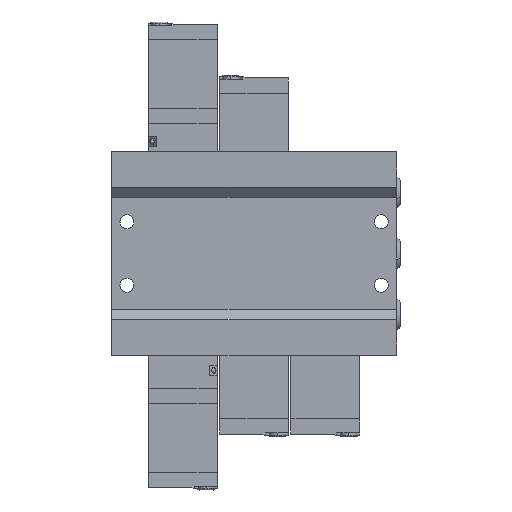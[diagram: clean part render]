
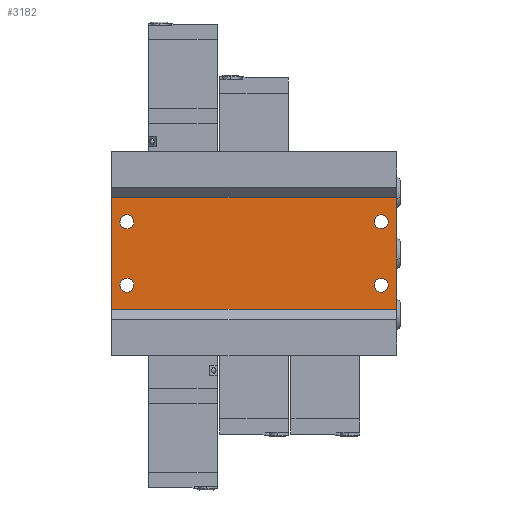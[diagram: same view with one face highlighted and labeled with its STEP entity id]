
A CAD part, front view. The second image highlights one B-rep face of the part: STEP entity #3182.
In plain terms, the highlighted planar face has unit normal (0, -1, 0).
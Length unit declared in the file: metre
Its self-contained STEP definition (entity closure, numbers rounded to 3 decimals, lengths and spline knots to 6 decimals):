
#71 = FACE_BOUND ( 'NONE', #6032, .T. ) ;
#81 = CARTESIAN_POINT ( 'NONE',  ( -0.056, -0.0175, -0.022 ) ) ;
#120 = VERTEX_POINT ( 'NONE', #5231 ) ;
#257 = EDGE_LOOP ( 'NONE', ( #2453, #1173 ) ) ;
#562 = PLANE ( 'NONE',  #7258 ) ;
#621 = DIRECTION ( 'NONE',  ( 0., -1., 0. ) ) ;
#665 = EDGE_CURVE ( 'NONE', #5649, #11669, #15891, .T. ) ;
#684 = EDGE_LOOP ( 'NONE', ( #14292, #7311 ) ) ;
#793 = ORIENTED_EDGE ( 'NONE', *, *, #13633, .F. ) ;
#879 = DIRECTION ( 'NONE',  ( 0., 1., 0. ) ) ;
#898 = DIRECTION ( 'NONE',  ( 0., -1., 0. ) ) ;
#900 = DIRECTION ( 'NONE',  ( 0., -1., 0. ) ) ;
#986 = DIRECTION ( 'NONE',  ( 0., 0., 1. ) ) ;
#1128 = DIRECTION ( 'NONE',  ( 0., 0., 1. ) ) ;
#1173 = ORIENTED_EDGE ( 'NONE', *, *, #14638, .F. ) ;
#1424 = VERTEX_POINT ( 'NONE', #3080 ) ;
#1600 = EDGE_LOOP ( 'NONE', ( #10502, #5006, #16964, #793 ) ) ;
#1783 = ORIENTED_EDGE ( 'NONE', *, *, #13950, .F. ) ;
#1929 = CARTESIAN_POINT ( 'NONE',  ( -0.05, -0.0175, 0.00975 ) ) ;
#2023 = CARTESIAN_POINT ( 'NONE',  ( -0.05, -0.0175, -0.01525 ) ) ;
#2399 = VERTEX_POINT ( 'NONE', #12392 ) ;
#2453 = ORIENTED_EDGE ( 'NONE', *, *, #665, .F. ) ;
#2691 = VERTEX_POINT ( 'NONE', #7793 ) ;
#2950 = LINE ( 'NONE', #8120, #10162 ) ;
#3080 = CARTESIAN_POINT ( 'NONE',  ( 0.056, -0.0175, 0.022 ) ) ;
#3139 = CIRCLE ( 'NONE', #13519, 0.00275 ) ;
#3159 = DIRECTION ( 'NONE',  ( 0., -1., 0. ) ) ;
#3175 = DIRECTION ( 'NONE',  ( -1., 0., 0. ) ) ;
#3182 = ADVANCED_FACE ( 'NONE', ( #71, #7678, #11099, #3878, #18404 ), #562, .F. ) ;
#3324 = CIRCLE ( 'NONE', #14054, 0.00275 ) ;
#3878 = FACE_BOUND ( 'NONE', #684, .T. ) ;
#3903 = CARTESIAN_POINT ( 'NONE',  ( 0., -0.0175, 0.022 ) ) ;
#3906 = EDGE_CURVE ( 'NONE', #16528, #4808, #10163, .T. ) ;
#4246 = AXIS2_PLACEMENT_3D ( 'NONE', #17056, #8323, #18524 ) ;
#4347 = VERTEX_POINT ( 'NONE', #2023 ) ;
#4808 = VERTEX_POINT ( 'NONE', #1929 ) ;
#5006 = ORIENTED_EDGE ( 'NONE', *, *, #7165, .F. ) ;
#5231 = CARTESIAN_POINT ( 'NONE',  ( -0.056, -0.0175, -0.022 ) ) ;
#5649 = VERTEX_POINT ( 'NONE', #14090 ) ;
#6030 = LINE ( 'NONE', #3903, #9904 ) ;
#6032 = EDGE_LOOP ( 'NONE', ( #1783, #9351 ) ) ;
#6181 = CIRCLE ( 'NONE', #4246, 0.00275 ) ;
#6767 = DIRECTION ( 'NONE',  ( 0., -1., 0. ) ) ;
#7165 = EDGE_CURVE ( 'NONE', #120, #12240, #2950, .T. ) ;
#7258 = AXIS2_PLACEMENT_3D ( 'NONE', #81, #879, #986 ) ;
#7304 = CARTESIAN_POINT ( 'NONE',  ( -0.05, -0.0175, -0.00975 ) ) ;
#7311 = ORIENTED_EDGE ( 'NONE', *, *, #9403, .F. ) ;
#7322 = CARTESIAN_POINT ( 'NONE',  ( -0.056, -0.0175, 0.022 ) ) ;
#7604 = VECTOR ( 'NONE', #3175, 1. ) ;
#7678 = FACE_BOUND ( 'NONE', #257, .T. ) ;
#7692 = DIRECTION ( 'NONE',  ( 0., 0., -1. ) ) ;
#7793 = CARTESIAN_POINT ( 'NONE',  ( 0.05, -0.0175, -0.01525 ) ) ;
#7993 = DIRECTION ( 'NONE',  ( 0., 0., 1. ) ) ;
#8120 = CARTESIAN_POINT ( 'NONE',  ( -0.056, -0.0175, 0. ) ) ;
#8323 = DIRECTION ( 'NONE',  ( 0., -1., 0. ) ) ;
#9242 = DIRECTION ( 'NONE',  ( 0., 0., 1. ) ) ;
#9351 = ORIENTED_EDGE ( 'NONE', *, *, #13156, .F. ) ;
#9403 = EDGE_CURVE ( 'NONE', #4808, #16528, #13544, .T. ) ;
#9452 = CARTESIAN_POINT ( 'NONE',  ( -0.05, -0.0175, 0.0125 ) ) ;
#9501 = CARTESIAN_POINT ( 'NONE',  ( 0.05, -0.0175, -0.0125 ) ) ;
#9503 = CARTESIAN_POINT ( 'NONE',  ( 0.05, -0.0175, -0.0125 ) ) ;
#9630 = DIRECTION ( 'NONE',  ( 0., -1., 0. ) ) ;
#9660 = DIRECTION ( 'NONE',  ( 0., 0., 1. ) ) ;
#9700 = EDGE_CURVE ( 'NONE', #15664, #2691, #3139, .T. ) ;
#9741 = AXIS2_PLACEMENT_3D ( 'NONE', #11801, #3159, #13253 ) ;
#9746 = EDGE_CURVE ( 'NONE', #12240, #1424, #6030, .T. ) ;
#9748 = DIRECTION ( 'NONE',  ( 0., -1., 0. ) ) ;
#9904 = VECTOR ( 'NONE', #12486, 1. ) ;
#10163 = CIRCLE ( 'NONE', #18257, 0.00275 ) ;
#10162 = VECTOR ( 'NONE', #7993, 1. ) ;
#10399 = CARTESIAN_POINT ( 'NONE',  ( 0.05, -0.0175, -0.00975 ) ) ;
#10502 = ORIENTED_EDGE ( 'NONE', *, *, #9746, .F. ) ;
#10687 = CARTESIAN_POINT ( 'NONE',  ( 0.05, -0.0175, 0.0125 ) ) ;
#10920 = EDGE_CURVE ( 'NONE', #2691, #15664, #17662, .T. ) ;
#10963 = DIRECTION ( 'NONE',  ( 0., 0., 1. ) ) ;
#10964 = DIRECTION ( 'NONE',  ( 0., 0., 1. ) ) ;
#11099 = FACE_BOUND ( 'NONE', #15146, .T. ) ;
#11669 = VERTEX_POINT ( 'NONE', #14057 ) ;
#11687 = EDGE_CURVE ( 'NONE', #2399, #120, #15350, .T. ) ;
#11801 = CARTESIAN_POINT ( 'NONE',  ( -0.05, -0.0175, 0.0125 ) ) ;
#11878 = ORIENTED_EDGE ( 'NONE', *, *, #9700, .F. ) ;
#12026 = CARTESIAN_POINT ( 'NONE',  ( 0.056, -0.0175, 0. ) ) ;
#12240 = VERTEX_POINT ( 'NONE', #7322 ) ;
#12392 = CARTESIAN_POINT ( 'NONE',  ( 0.056, -0.0175, -0.022 ) ) ;
#12486 = DIRECTION ( 'NONE',  ( 1., 0., 0. ) ) ;
#12721 = VERTEX_POINT ( 'NONE', #7304 ) ;
#12960 = CARTESIAN_POINT ( 'NONE',  ( -0.05, -0.0175, 0.01525 ) ) ;
#13156 = EDGE_CURVE ( 'NONE', #4347, #12721, #3324, .T. ) ;
#13253 = DIRECTION ( 'NONE',  ( 0., 0., 1. ) ) ;
#13519 = AXIS2_PLACEMENT_3D ( 'NONE', #9503, #900, #10964 ) ;
#13544 = CIRCLE ( 'NONE', #9741, 0.00275 ) ;
#13633 = EDGE_CURVE ( 'NONE', #1424, #2399, #17139, .T. ) ;
#13950 = EDGE_CURVE ( 'NONE', #12721, #4347, #6181, .T. ) ;
#14054 = AXIS2_PLACEMENT_3D ( 'NONE', #15474, #6767, #16951 ) ;
#14057 = CARTESIAN_POINT ( 'NONE',  ( 0.05, -0.0175, 0.00975 ) ) ;
#14090 = CARTESIAN_POINT ( 'NONE',  ( 0.05, -0.0175, 0.01525 ) ) ;
#14292 = ORIENTED_EDGE ( 'NONE', *, *, #3906, .F. ) ;
#14638 = EDGE_CURVE ( 'NONE', #11669, #5649, #16877, .T. ) ;
#15146 = EDGE_LOOP ( 'NONE', ( #11878, #16234 ) ) ;
#15173 = AXIS2_PLACEMENT_3D ( 'NONE', #18470, #9748, #1128 ) ;
#15350 = LINE ( 'NONE', #16129, #7604 ) ;
#15474 = CARTESIAN_POINT ( 'NONE',  ( -0.05, -0.0175, -0.0125 ) ) ;
#15664 = VERTEX_POINT ( 'NONE', #10399 ) ;
#15891 = CIRCLE ( 'NONE', #17425, 0.00275 ) ;
#15967 = AXIS2_PLACEMENT_3D ( 'NONE', #9501, #898, #10963 ) ;
#16129 = CARTESIAN_POINT ( 'NONE',  ( 0., -0.0175, -0.022 ) ) ;
#16234 = ORIENTED_EDGE ( 'NONE', *, *, #10920, .F. ) ;
#16528 = VERTEX_POINT ( 'NONE', #12960 ) ;
#16676 = VECTOR ( 'NONE', #7692, 1. ) ;
#16877 = CIRCLE ( 'NONE', #15173, 0.00275 ) ;
#16951 = DIRECTION ( 'NONE',  ( 0., 0., 1. ) ) ;
#16964 = ORIENTED_EDGE ( 'NONE', *, *, #11687, .F. ) ;
#17056 = CARTESIAN_POINT ( 'NONE',  ( -0.05, -0.0175, -0.0125 ) ) ;
#17139 = LINE ( 'NONE', #12026, #16676 ) ;
#17425 = AXIS2_PLACEMENT_3D ( 'NONE', #10687, #621, #9242 ) ;
#17662 = CIRCLE ( 'NONE', #15967, 0.00275 ) ;
#18257 = AXIS2_PLACEMENT_3D ( 'NONE', #9452, #9630, #9660 ) ;
#18404 = FACE_OUTER_BOUND ( 'NONE', #1600, .T. ) ;
#18470 = CARTESIAN_POINT ( 'NONE',  ( 0.05, -0.0175, 0.0125 ) ) ;
#18524 = DIRECTION ( 'NONE',  ( 0., 0., 1. ) ) ;
